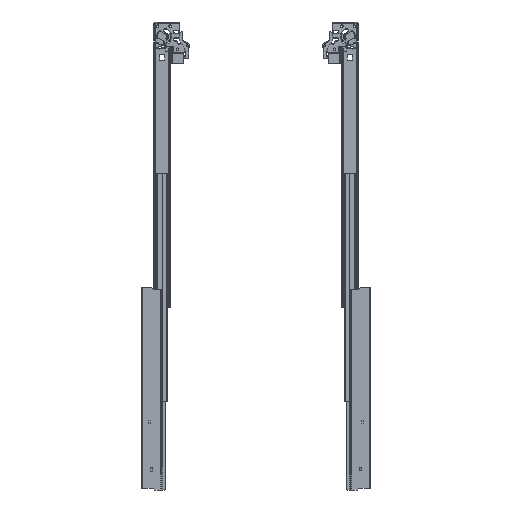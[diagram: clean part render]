
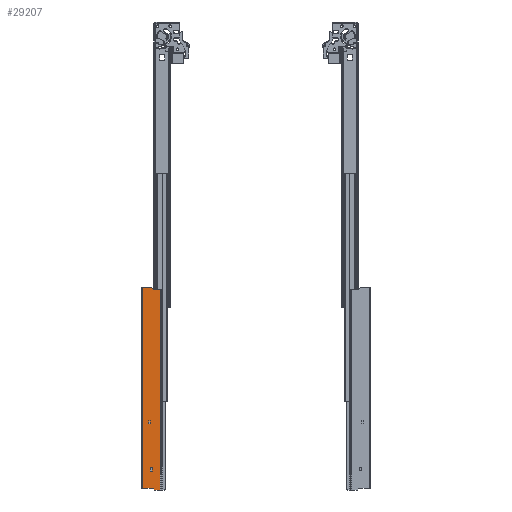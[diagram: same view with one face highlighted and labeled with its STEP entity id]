
A CAD part, front view. The second image highlights one B-rep face of the part: STEP entity #29207.
In plain terms, the highlighted planar face has unit normal (0, -1, 0).
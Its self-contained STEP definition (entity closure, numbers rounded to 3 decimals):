
#803=FACE_BOUND('',#5948,.T.);
#804=FACE_BOUND('',#5949,.T.);
#1919=CIRCLE('',#31121,2.);
#1920=CIRCLE('',#31122,2.);
#4077=FACE_OUTER_BOUND('',#5947,.T.);
#5947=EDGE_LOOP('',(#18647,#18648,#18649,#18650,#18651,#18652,#18653,#18654,
#18655,#18656));
#5948=EDGE_LOOP('',(#18657,#18658,#18659,#18660));
#5949=EDGE_LOOP('',(#18661,#18662,#18663,#18664));
#8113=LINE('',#45108,#10033);
#8117=LINE('',#45116,#10037);
#8120=LINE('',#45122,#10040);
#8123=LINE('',#45127,#10043);
#8125=LINE('',#45133,#10045);
#8129=LINE('',#45141,#10049);
#8132=LINE('',#45147,#10052);
#8135=LINE('',#45152,#10055);
#8137=LINE('',#45158,#10057);
#8152=LINE('',#45206,#10072);
#8160=LINE('',#45226,#10080);
#8161=LINE('',#45230,#10081);
#8162=LINE('',#45232,#10082);
#8163=LINE('',#45234,#10083);
#8164=LINE('',#45238,#10084);
#8165=LINE('',#45241,#10085);
#10033=VECTOR('',#35126,5.);
#10037=VECTOR('',#35132,3.);
#10040=VECTOR('',#35137,5.);
#10043=VECTOR('',#35142,3.);
#10045=VECTOR('',#35148,6.);
#10049=VECTOR('',#35154,3.5);
#10052=VECTOR('',#35159,6.);
#10055=VECTOR('',#35164,3.5);
#10057=VECTOR('',#35170,4.243);
#10072=VECTOR('',#35205,18.);
#10080=VECTOR('',#35225,352.);
#10081=VECTOR('',#35230,9.5);
#10082=VECTOR('',#35231,350.);
#10083=VECTOR('',#35232,9.672);
#10084=VECTOR('',#35235,5.414);
#10085=VECTOR('',#35238,14.172);
#11953=VERTEX_POINT('',#45106);
#11954=VERTEX_POINT('',#45107);
#11957=VERTEX_POINT('',#45115);
#11959=VERTEX_POINT('',#45121);
#11961=VERTEX_POINT('',#45131);
#11962=VERTEX_POINT('',#45132);
#11965=VERTEX_POINT('',#45140);
#11967=VERTEX_POINT('',#45146);
#11969=VERTEX_POINT('',#45156);
#11970=VERTEX_POINT('',#45157);
#11993=VERTEX_POINT('',#45205);
#11999=VERTEX_POINT('',#45225);
#12000=VERTEX_POINT('',#45229);
#12001=VERTEX_POINT('',#45231);
#12002=VERTEX_POINT('',#45233);
#12003=VERTEX_POINT('',#45235);
#12004=VERTEX_POINT('',#45237);
#12005=VERTEX_POINT('',#45239);
#14409=EDGE_CURVE('',#11953,#11954,#8113,.T.);
#14413=EDGE_CURVE('',#11954,#11957,#8117,.T.);
#14416=EDGE_CURVE('',#11957,#11959,#8120,.T.);
#14419=EDGE_CURVE('',#11959,#11953,#8123,.T.);
#14421=EDGE_CURVE('',#11961,#11962,#8125,.T.);
#14425=EDGE_CURVE('',#11962,#11965,#8129,.T.);
#14428=EDGE_CURVE('',#11965,#11967,#8132,.T.);
#14431=EDGE_CURVE('',#11967,#11961,#8135,.T.);
#14433=EDGE_CURVE('',#11969,#11970,#8137,.T.);
#14457=EDGE_CURVE('',#11993,#11969,#8152,.T.);
#14467=EDGE_CURVE('',#11999,#11993,#8160,.T.);
#14469=EDGE_CURVE('',#12000,#11970,#8161,.T.);
#14470=EDGE_CURVE('',#12001,#12000,#8162,.T.);
#14471=EDGE_CURVE('',#12001,#12002,#8163,.T.);
#14472=EDGE_CURVE('',#12003,#12002,#1919,.T.);
#14473=EDGE_CURVE('',#12003,#12004,#8164,.T.);
#14474=EDGE_CURVE('',#12005,#12004,#1920,.T.);
#14475=EDGE_CURVE('',#11999,#12005,#8165,.T.);
#18647=ORIENTED_EDGE('',*,*,#14457,.T.);
#18648=ORIENTED_EDGE('',*,*,#14433,.T.);
#18649=ORIENTED_EDGE('',*,*,#14469,.F.);
#18650=ORIENTED_EDGE('',*,*,#14470,.F.);
#18651=ORIENTED_EDGE('',*,*,#14471,.T.);
#18652=ORIENTED_EDGE('',*,*,#14472,.F.);
#18653=ORIENTED_EDGE('',*,*,#14473,.T.);
#18654=ORIENTED_EDGE('',*,*,#14474,.F.);
#18655=ORIENTED_EDGE('',*,*,#14475,.F.);
#18656=ORIENTED_EDGE('',*,*,#14467,.T.);
#18657=ORIENTED_EDGE('',*,*,#14409,.T.);
#18658=ORIENTED_EDGE('',*,*,#14413,.T.);
#18659=ORIENTED_EDGE('',*,*,#14416,.T.);
#18660=ORIENTED_EDGE('',*,*,#14419,.T.);
#18661=ORIENTED_EDGE('',*,*,#14421,.T.);
#18662=ORIENTED_EDGE('',*,*,#14425,.T.);
#18663=ORIENTED_EDGE('',*,*,#14428,.T.);
#18664=ORIENTED_EDGE('',*,*,#14431,.T.);
#26885=PLANE('',#31120);
#29207=ADVANCED_FACE('',(#4077,#803,#804),#26885,.T.);
#31120=AXIS2_PLACEMENT_3D('',#45228,#35228,#35229);
#31121=AXIS2_PLACEMENT_3D('',#45236,#35233,#35234);
#31122=AXIS2_PLACEMENT_3D('',#45240,#35236,#35237);
#35126=DIRECTION('',(0.,0.,1.));
#35132=DIRECTION('',(1.,0.,0.));
#35137=DIRECTION('',(0.,0.,-1.));
#35142=DIRECTION('',(-1.,0.,0.));
#35148=DIRECTION('',(0.,0.,1.));
#35154=DIRECTION('',(1.,0.,0.));
#35159=DIRECTION('',(0.,0.,-1.));
#35164=DIRECTION('',(-1.,0.,0.));
#35170=DIRECTION('',(0.707,0.,-0.707));
#35205=DIRECTION('',(1.,0.,0.));
#35225=DIRECTION('',(0.,0.,-1.));
#35228=DIRECTION('center_axis',(0.,-1.,0.));
#35229=DIRECTION('ref_axis',(-1.,0.,0.));
#35230=DIRECTION('',(-1.,0.,0.));
#35231=DIRECTION('',(0.,0.,-1.));
#35232=DIRECTION('',(-1.,0.,0.));
#35233=DIRECTION('center_axis',(0.,-1.,0.));
#35234=DIRECTION('ref_axis',(-0.383,0.,-0.924));
#35235=DIRECTION('',(-0.707,0.,0.707));
#35236=DIRECTION('center_axis',(0.,1.,0.));
#35237=DIRECTION('ref_axis',(0.383,0.,0.924));
#35238=DIRECTION('',(1.,0.,0.));
#45106=CARTESIAN_POINT('',(12.,0.,-239.));
#45107=CARTESIAN_POINT('',(12.,0.,-234.));
#45108=CARTESIAN_POINT('',(12.,0.,-117.));
#45115=CARTESIAN_POINT('',(15.,0.,-234.));
#45116=CARTESIAN_POINT('',(23.75,0.,-234.));
#45121=CARTESIAN_POINT('',(15.,0.,-239.));
#45122=CARTESIAN_POINT('',(15.,0.,-119.5));
#45127=CARTESIAN_POINT('',(22.25,0.,-239.));
#45131=CARTESIAN_POINT('',(15.,0.,-322.));
#45132=CARTESIAN_POINT('',(15.,0.,-316.));
#45133=CARTESIAN_POINT('',(15.,0.,-158.));
#45140=CARTESIAN_POINT('',(18.5,0.,-316.));
#45141=CARTESIAN_POINT('',(25.5,0.,-316.));
#45146=CARTESIAN_POINT('',(18.5,0.,-322.));
#45147=CARTESIAN_POINT('',(18.5,0.,-161.));
#45152=CARTESIAN_POINT('',(23.75,0.,-322.));
#45156=CARTESIAN_POINT('',(20.,0.,-352.));
#45157=CARTESIAN_POINT('',(23.,0.,-355.));
#45158=CARTESIAN_POINT('',(-64.875,0.,-267.125));
#45205=CARTESIAN_POINT('',(2.,0.,-352.));
#45206=CARTESIAN_POINT('',(16.25,0.,-352.));
#45225=CARTESIAN_POINT('',(2.,0.,0.));
#45226=CARTESIAN_POINT('',(2.,0.,0.));
#45228=CARTESIAN_POINT('Origin',(32.5,0.,0.));
#45229=CARTESIAN_POINT('',(32.5,0.,-355.));
#45230=CARTESIAN_POINT('',(2.,0.,-355.));
#45231=CARTESIAN_POINT('',(32.5,0.,-5.));
#45232=CARTESIAN_POINT('',(32.5,0.,0.));
#45233=CARTESIAN_POINT('',(22.828,0.,-5.));
#45234=CARTESIAN_POINT('',(35.75,0.,-5.));
#45235=CARTESIAN_POINT('',(21.414,0.,-4.414));
#45236=CARTESIAN_POINT('Origin',(22.828,0.,
-3.));
#45237=CARTESIAN_POINT('',(17.586,0.,-0.586));
#45238=CARTESIAN_POINT('',(23.375,0.,-6.375));
#45239=CARTESIAN_POINT('',(16.172,0.,0.));
#45240=CARTESIAN_POINT('Origin',(16.172,0.,
-2.));
#45241=CARTESIAN_POINT('',(2.,0.,0.));
